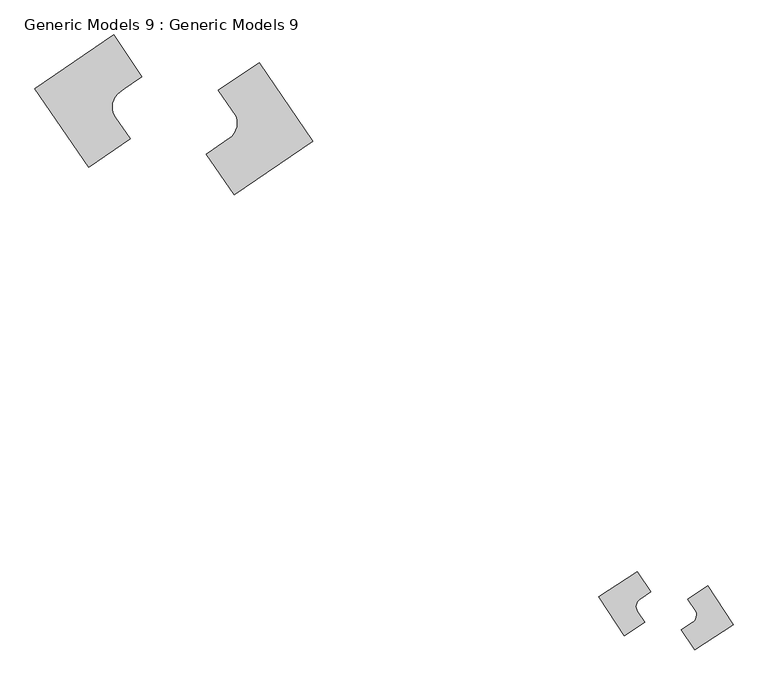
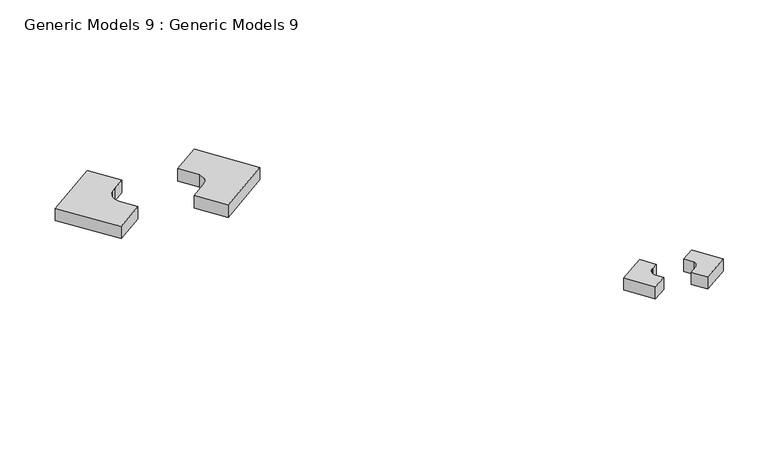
"""IFC4 building model written with IfcOpenShell, lengths in millimetres: proxy geometry, Generic Models 9 : Generic Models 9."""

from ifc_helpers import new_model, si_unit, point, frame, frame_2d, origin, place, context, project, spatial, polyline, circle_curve, trimmed, segment, composite_curve, outline, extrude, source, transform, mapped, element, save


def generic_models_9_generic_models_9_0781c5c2(model_context):
    return source(origin(), model_context, "Body", "SweptSolid", [
        extrude(outline(composite_curve([segment(polyline([(936819.4381139, 22335.4349021), (936537.7515144, 22761.7880707), (936780.0200475, 22921.852084)]), True, "CONTINUOUS"), segment(trimmed(circle_curve(frame_2d((936675.7039177, 23079.7421381)), 189.2382734), [point((936780.0200475, 22921.852084))], [point((936852.5426254, 23147.1156907))], True, "CARTESIAN"), True, "CONTINUOUS"), segment(polyline([(936852.5426254, 23147.1156907), (936673.0599284, 23418.7758148), (937098.1728936, 23699.6430263), (937640.9095659, 22878.1715744), (936819.4381139, 22335.4349021)]), True, "CONTINUOUS")], self_intersect=False)), frame((0.0, 0.0, 6393.4679968), z_axis=(0.0, 0.0, 1.0), x_axis=(1.0, 0.0, 0.0)), (0.0, 0.0, 1.0), 414.6508497),
        extrude(outline(composite_curve([segment(polyline([(935602.4175791, 23159.1725085), (935753.8474093, 22929.97244), (935320.7285092, 22643.8158), (934777.991837, 23465.287252), (935599.4632888, 24008.0239243), (935886.4540012, 23573.6425949), (935703.0865601, 23452.4938508), (935654.7020856, 23415.0679098)]), True, "CONTINUOUS"), segment(trimmed(circle_curve(frame_2d((935756.5075328, 23260.9779559)), 184.6836835), [point((935654.7020856, 23415.0679098))], [point((935602.4175791, 23159.1725085))], True, "CARTESIAN"), True, "CONTINUOUS")], self_intersect=False)), frame((0.0, 0.0, 6393.4679968), z_axis=(0.0, 0.0, 1.0), x_axis=(1.0, 0.0, 0.0)), (0.0, 0.0, 1.0), 414.6508497),
        extrude(outline(composite_curve([segment(polyline([(927007.6044644, 32030.8315393), (926413.8131366, 32901.1102844), (926908.3354492, 33238.5229378)]), True, "CONTINUOUS"), segment(trimmed(circle_curve(frame_2d((926688.4385378, 33560.8105817)), 390.1589126), [point((926908.3354492, 33238.5229378))], [point((927050.9234059, 33705.1320892))], True, "CARTESIAN"), True, "CONTINUOUS"), segment(polyline([(927050.9234059, 33705.1320892), (926672.5764444, 34259.6489765), (927540.323667, 34851.7130461), (928684.4048192, 33174.9126915), (927007.6044644, 32030.8315393)]), True, "CONTINUOUS")], self_intersect=False)), frame((0.0, 0.0, 6393.4679968), z_axis=(0.0, 0.0, 1.0), x_axis=(1.0, 0.0, 0.0)), (0.0, 0.0, 1.0), 414.6508497),
        extrude(outline(composite_curve([segment(polyline([(924441.256285, 35441.4174169), (925046.228607, 34554.7514648), (924671.9361231, 34299.3716428), (924529.0114887, 34185.3751863)]), True, "CONTINUOUS"), segment(trimmed(circle_curve(frame_2d((924787.9450451, 33906.2012069)), 380.7685614), [point((924529.0114887, 34185.3751863))], [point((924473.4142255, 33691.596778))], True, "CARTESIAN"), True, "CONTINUOUS"), segment(polyline([(924473.4142255, 33691.596778), (924792.6261444, 33223.7500194), (923908.5370826, 32620.5359101), (922764.4559305, 34297.3362647), (924441.256285, 35441.4174169)]), True, "CONTINUOUS")], self_intersect=False)), frame((0.0, 0.0, 6393.4679968), z_axis=(0.0, 0.0, 1.0), x_axis=(1.0, 0.0, 0.0)), (0.0, 0.0, 1.0), 414.6508497),
    ])


if __name__ == "__main__":
    model = new_model("IFC4")
    model_context = context("Model", 3, world=origin())
    ifc_project = project(units=[si_unit("LENGTHUNIT", "METRE", prefix="MILLI")], contexts=[model_context])
    site = spatial("IfcSite", under=ifc_project)
    building = spatial("IfcBuilding", under=site)
    placement = place(None, origin())
    generic_models_9_generic_models_9_shape = generic_models_9_generic_models_9_0781c5c2(model_context)
    element("IfcBuildingElementProxy", 1, Name="Generic Models 9 : Generic Models 9", ObjectType="Generic Models 9 : Generic Models 9", at=placement, inside=building, context=model_context, shape_type="MappedRepresentation", body=[
        mapped(generic_models_9_generic_models_9_shape, transform((0.0, 0.0, 0.0), x_axis=(1.0, 0.0, 0.0), y_axis=(0.0, 1.0, 0.0), z_axis=(0.0, 0.0, 1.0))),
    ])
    save(model, "model.ifc")
